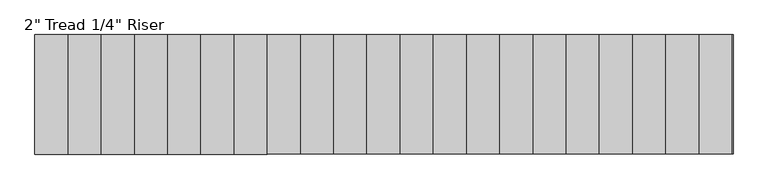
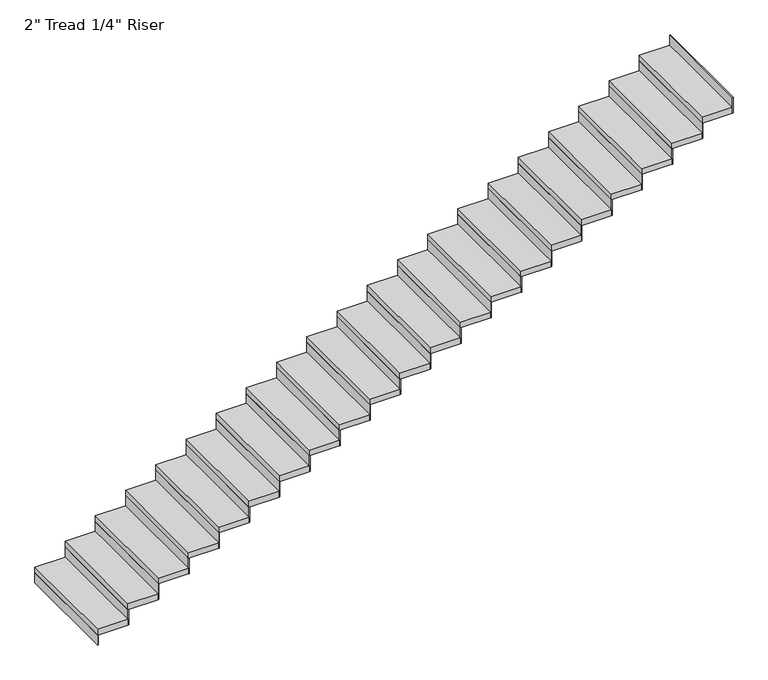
"""IFC4 building model written with IfcOpenShell, lengths in millimetres: stair flight geometry."""

import ifcopenshell
import ifcopenshell.guid

model = None  # the IFC model being written
_history = None  # IfcOwnerHistory: only IFC2X3 demands one
_inside = {}  # id of a spatial element -> (the spatial element, [elements in it])
_under = {}  # id of a project, library or spatial element -> (it, [spatial elements below it])
_declared = {}  # id of a project -> (the project, [libraries it declares])
_typed = {}  # id of a type object -> (the type object, [elements of that type])
_made_of = {}  # id of a material, layer set ... -> (it, [elements and type objects made of it])


def new_model(schema):
    """Start an empty IFC model of exactly this schema.

    Asked for "IFC4X3", IfcOpenShell would pick the latest addendum, in which some entities
    have other attributes; the version numbers below select the first issue.
    IFC2X3 requires an IfcOwnerHistory on every rooted entity: one is made here for all.
    """
    global model, _history
    if schema == "IFC4X3":
        model = ifcopenshell.file(schema_version=(4, 3, 0, 0))
    else:
        model = ifcopenshell.file(schema=schema)
    _inside.clear()
    _under.clear()
    _declared.clear()
    _typed.clear()
    _made_of.clear()
    _history = None
    if model.schema == "IFC2X3":
        org = make("IfcOrganization", Name="unknown")
        user = make(
            "IfcPersonAndOrganization",
            ThePerson=make("IfcPerson", FamilyName="unknown"),
            TheOrganization=org,
        )
        app = make(
            "IfcApplication",
            ApplicationDeveloper=org,
            Version="unknown",
            ApplicationFullName="unknown",
            ApplicationIdentifier="unknown",
        )
        _history = make(
            "IfcOwnerHistory",
            OwningUser=user,
            OwningApplication=app,
            ChangeAction="ADDED",
            CreationDate=0,
        )
    return model


def make(cls, **values):
    """One entity of the class cls with the attributes given. An attribute that is None is left unset."""
    return model.create_entity(
        cls, **{name: value for name, value in values.items() if value is not None}
    )


def rooted(cls, **values):
    """An entity with a GlobalId (a new one), such as an element, a storey or a relation."""
    return make(cls, GlobalId=ifcopenshell.guid.new(), OwnerHistory=_history, **values)


def si_unit(unit_type, name, prefix=None):
    """IfcSIUnit, for example si_unit("LENGTHUNIT", "METRE", prefix="MILLI")."""
    return make("IfcSIUnit", UnitType=unit_type, Prefix=prefix, Name=name)


def assignment(units):
    """IfcUnitAssignment: the units of a project."""
    return None if units is None else make("IfcUnitAssignment", Units=units)


def point(xyz):
    """IfcCartesianPoint."""
    return None if xyz is None else make("IfcCartesianPoint", Coordinates=xyz)


def direction(xyz):
    """IfcDirection."""
    return None if xyz is None else make("IfcDirection", DirectionRatios=xyz)


def frame(location, z_axis=None, x_axis=None):
    """IfcAxis2Placement3D, a coordinate frame: its origin and axes. An axis left out is left unset."""
    return make(
        "IfcAxis2Placement3D",
        Location=point(location),
        Axis=direction(z_axis),
        RefDirection=direction(x_axis),
    )


def origin():
    """The frame at (0, 0, 0) with its axes left unset."""
    return frame((0.0, 0.0, 0.0))


def origin_with_axes():
    """The frame at (0, 0, 0) with the z axis (0, 0, 1) and the x axis (1, 0, 0) written out."""
    return frame((0.0, 0.0, 0.0), z_axis=(0.0, 0.0, 1.0), x_axis=(1.0, 0.0, 0.0))


def place(relative_to, where):
    """IfcLocalPlacement: puts the frame where relative to a parent placement (None: the world)."""
    return make(
        "IfcLocalPlacement", PlacementRelTo=relative_to, RelativePlacement=where
    )


def context(
    kind, dimensions, precision=None, world=None, true_north=None, identifier=None
):
    """IfcGeometricRepresentationContext, for example the 3D "Model" context."""
    return make(
        "IfcGeometricRepresentationContext",
        ContextIdentifier=identifier,
        ContextType=kind,
        CoordinateSpaceDimension=dimensions,
        Precision=precision,
        WorldCoordinateSystem=world,
        TrueNorth=true_north,
    )


def project(units=None, contexts=None):
    """IfcProject with its units and contexts."""
    return rooted(
        "IfcProject",
        Name="project",
        RepresentationContexts=contexts,
        UnitsInContext=assignment(units),
    )


def spatial(cls, under=None, at=None, **own):
    """A site, building, storey or space (cls), placed at a placement, below another one or the project."""
    s = rooted(cls, ObjectPlacement=at, **own)
    if under is not None:
        _under.setdefault(under.id(), (under, []))[1].append(s)
    return s


def polyline(points):
    """IfcPolyline through the points."""
    return make("IfcPolyline", Points=[point(p) for p in points])


def outline(outer, holes=None, kind="AREA"):
    """IfcArbitraryClosedProfileDef: a profile drawn as a closed curve; with holes, ...WithVoids."""
    if holes is None:
        return make("IfcArbitraryClosedProfileDef", ProfileType=kind, OuterCurve=outer)
    return make(
        "IfcArbitraryProfileDefWithVoids",
        ProfileType=kind,
        OuterCurve=outer,
        InnerCurves=holes,
    )


def extrude(swept, where, along, depth):
    """IfcExtrudedAreaSolid: the profile swept, set in the frame where, extruded along a direction by depth."""
    return make(
        "IfcExtrudedAreaSolid",
        SweptArea=swept,
        Position=where,
        ExtrudedDirection=direction(along),
        Depth=depth,
    )


def shape(context_of_items, identifier, shape_type, items):
    """IfcShapeRepresentation: the items that make up one representation, for example the "Body"."""
    return make(
        "IfcShapeRepresentation",
        ContextOfItems=context_of_items,
        RepresentationIdentifier=identifier,
        RepresentationType=shape_type,
        Items=items,
    )


def source(mapping_origin, context_of_items, identifier, shape_type, items):
    """IfcRepresentationMap: a shape defined once, which mapped items show again and again."""
    return make(
        "IfcRepresentationMap",
        MappingOrigin=mapping_origin,
        MappedRepresentation=shape(context_of_items, identifier, shape_type, items),
    )


def transform(
    local_origin,
    x_axis=None,
    y_axis=None,
    z_axis=None,
    scale=None,
    scale2=None,
    scale3=None,
    uniform=True,
):
    """IfcCartesianTransformationOperator3D, or its non-uniform kind. x_axis, y_axis, z_axis: its Axis1, 2, 3."""
    if uniform:
        return make(
            "IfcCartesianTransformationOperator3D",
            Axis1=direction(x_axis),
            Axis2=direction(y_axis),
            LocalOrigin=point(local_origin),
            Scale=scale,
            Axis3=direction(z_axis),
        )
    return make(
        "IfcCartesianTransformationOperator3DnonUniform",
        Axis1=direction(x_axis),
        Axis2=direction(y_axis),
        LocalOrigin=point(local_origin),
        Scale=scale,
        Axis3=direction(z_axis),
        Scale2=scale2,
        Scale3=scale3,
    )


def mapped(mapping_source, mapping_target):
    """IfcMappedItem: shows the shape of a source again, moved by a transform."""
    return make(
        "IfcMappedItem", MappingSource=mapping_source, MappingTarget=mapping_target
    )


def made_of(thing, what):
    """Note that an element or type object is made of a material, layer set ...; save() writes the relation."""
    if what is not None:
        _made_of.setdefault(what.id(), (what, []))[1].append(thing)
    return thing


def element(
    cls,
    number,
    at=None,
    inside=None,
    cuts=None,
    type_object=None,
    material=None,
    context=None,
    identifier="Body",
    shape_type=None,
    held_by="IfcProductDefinitionShape",
    body=None,
    shapes=None,
    **own,
):
    """One element of the class cls, such as IfcWall. Its Tag is "e" and its number.

    at: its placement. inside: the storey or other place that contains it. cuts: it is an
    opening in that element (IfcRelVoidsElement). A single representation is given by context,
    identifier, shape_type and body (its items); several are given by shapes. held_by: the class
    of the entity that holds the representations. save() writes the other relations.
    """
    e = rooted(cls, Tag="e%d" % number, ObjectPlacement=at, **own)
    if body is not None:
        shapes = [shape(context, identifier, shape_type, body)]
    if shapes is not None:
        e.Representation = make(held_by, Representations=shapes)
    if inside is not None:
        _inside.setdefault(inside.id(), (inside, []))[1].append(e)
    if cuts is not None:
        rooted(
            "IfcRelVoidsElement", RelatingBuildingElement=cuts, RelatedOpeningElement=e
        )
    if type_object is not None:
        _typed.setdefault(type_object.id(), (type_object, []))[1].append(e)
    return made_of(e, material)


def aggregate(whole, parts):
    """IfcRelAggregates: a whole, such as a stair, and the parts it consists of."""
    return rooted("IfcRelAggregates", RelatingObject=whole, RelatedObjects=parts)


def save(model, path):
    """Write the relations noted so far, then the file.

    IfcRelAggregates (storeys below a building ...), IfcRelContainedInSpatialStructure (elements
    in a storey), IfcRelDefinesByType, IfcRelAssociatesMaterial and IfcRelDeclares: one each for
    every whole, place, type object, material and project.
    """
    for whole, parts in _under.values():
        aggregate(whole, parts)
    for where, things in _inside.values():
        rooted(
            "IfcRelContainedInSpatialStructure",
            RelatedElements=things,
            RelatingStructure=where,
        )
    for kind, things in _typed.values():
        rooted("IfcRelDefinesByType", RelatedObjects=things, RelatingType=kind)
    for what, things in _made_of.values():
        rooted("IfcRelAssociatesMaterial", RelatedObjects=things, RelatingMaterial=what)
    for by, libraries in _declared.values():
        rooted("IfcRelDeclares", RelatingContext=by, RelatedDefinitions=libraries)
    model.write(path)


def stair_flight_d3d5d3fa(model_context):
    return source(origin(), model_context, "Body", "SweptSolid", [
        extrude(outline(polyline([(29961.699343, -10136.835031), (29955.349343, -10136.835031), (29955.349343, -9222.435031), (29961.699343, -9222.435031), (29961.699343, -10136.835031)])), origin_with_axes(), (0.0, 0.0, 1.0), 87.7454545),
        extrude(outline(polyline([(30209.349343, -9222.435031), (30209.349343, -10136.835031), (29955.349343, -10136.835031), (29955.349343, -9222.435031), (30209.349343, -9222.435031)])), frame((0.0, 0.0, 87.7454545), z_axis=(0.0, 0.0, 1.0), x_axis=(1.0, 0.0, 0.0)), (0.0, 0.0, 1.0), 50.8),
        extrude(outline(polyline([(30215.699343, -10136.835031), (30209.349343, -10136.835031), (30209.349343, -9222.435031), (30215.699343, -9222.435031), (30215.699343, -10136.835031)])), frame((0.0, 0.0, 87.7454545), z_axis=(0.0, 0.0, 1.0), x_axis=(1.0, 0.0, 0.0)), (0.0, 0.0, 1.0), 138.5454545),
        extrude(outline(polyline([(30463.349343, -9222.435031), (30463.349343, -10136.835031), (30209.349343, -10136.835031), (30209.349343, -9222.435031), (30463.349343, -9222.435031)])), frame((0.0, 0.0, 226.2909091), z_axis=(0.0, 0.0, 1.0), x_axis=(1.0, 0.0, 0.0)), (0.0, 0.0, 1.0), 50.8),
        extrude(outline(polyline([(30469.699343, -10136.835031), (30463.349343, -10136.835031), (30463.349343, -9222.435031), (30469.699343, -9222.435031), (30469.699343, -10136.835031)])), frame((0.0, 0.0, 226.2909091), z_axis=(0.0, 0.0, 1.0), x_axis=(1.0, 0.0, 0.0)), (0.0, 0.0, 1.0), 138.5454545),
        extrude(outline(polyline([(30717.349343, -9222.435031), (30717.349343, -10136.835031), (30463.349343, -10136.835031), (30463.349343, -9222.435031), (30717.349343, -9222.435031)])), frame((0.0, 0.0, 364.8363636), z_axis=(0.0, 0.0, 1.0), x_axis=(1.0, 0.0, 0.0)), (0.0, 0.0, 1.0), 50.8),
        extrude(outline(polyline([(30723.699343, -10136.835031), (30717.349343, -10136.835031), (30717.349343, -9222.435031), (30723.699343, -9222.435031), (30723.699343, -10136.835031)])), frame((0.0, 0.0, 364.8363636), z_axis=(0.0, 0.0, 1.0), x_axis=(1.0, 0.0, 0.0)), (0.0, 0.0, 1.0), 138.5454545),
        extrude(outline(polyline([(30971.349343, -9222.435031), (30971.349343, -10136.835031), (30717.349343, -10136.835031), (30717.349343, -9222.435031), (30971.349343, -9222.435031)])), frame((0.0, 0.0, 503.3818182), z_axis=(0.0, 0.0, 1.0), x_axis=(1.0, 0.0, 0.0)), (0.0, 0.0, 1.0), 50.8),
        extrude(outline(polyline([(30977.699343, -10136.835031), (30971.349343, -10136.835031), (30971.349343, -9222.435031), (30977.699343, -9222.435031), (30977.699343, -10136.835031)])), frame((0.0, 0.0, 503.3818182), z_axis=(0.0, 0.0, 1.0), x_axis=(1.0, 0.0, 0.0)), (0.0, 0.0, 1.0), 138.5454545),
        extrude(outline(polyline([(31225.349343, -9222.435031), (31225.349343, -10136.835031), (30971.349343, -10136.835031), (30971.349343, -9222.435031), (31225.349343, -9222.435031)])), frame((0.0, 0.0, 641.9272727), z_axis=(0.0, 0.0, 1.0), x_axis=(1.0, 0.0, 0.0)), (0.0, 0.0, 1.0), 50.8),
        extrude(outline(polyline([(31231.699343, -10136.835031), (31225.349343, -10136.835031), (31225.349343, -9222.435031), (31231.699343, -9222.435031), (31231.699343, -10136.835031)])), frame((0.0, 0.0, 641.9272727), z_axis=(0.0, 0.0, 1.0), x_axis=(1.0, 0.0, 0.0)), (0.0, 0.0, 1.0), 138.5454545),
        extrude(outline(polyline([(31479.349343, -9222.435031), (31479.349343, -10136.835031), (31225.349343, -10136.835031), (31225.349343, -9222.435031), (31479.349343, -9222.435031)])), frame((0.0, 0.0, 780.4727273), z_axis=(0.0, 0.0, 1.0), x_axis=(1.0, 0.0, 0.0)), (0.0, 0.0, 1.0), 50.8),
        extrude(outline(polyline([(31485.699343, -10136.835031), (31479.349343, -10136.835031), (31479.349343, -9222.435031), (31485.699343, -9222.435031), (31485.699343, -10136.835031)])), frame((0.0, 0.0, 780.4727273), z_axis=(0.0, 0.0, 1.0), x_axis=(1.0, 0.0, 0.0)), (0.0, 0.0, 1.0), 138.5454545),
        extrude(outline(polyline([(31733.349343, -9222.435031), (31733.349343, -10136.835031), (31479.349343, -10136.835031), (31479.349343, -9222.435031), (31733.349343, -9222.435031)])), frame((0.0, 0.0, 919.0181818), z_axis=(0.0, 0.0, 1.0), x_axis=(1.0, 0.0, 0.0)), (0.0, 0.0, 1.0), 50.8),
        extrude(outline(polyline([(31739.699343, -10136.835031), (31733.349343, -10136.835031), (31733.349343, -9222.435031), (31739.699343, -9222.435031), (31739.699343, -10136.835031)])), frame((0.0, 0.0, 919.0181818), z_axis=(0.0, 0.0, 1.0), x_axis=(1.0, 0.0, 0.0)), (0.0, 0.0, 1.0), 138.5454545),
        extrude(outline(polyline([(31987.349343, -9222.435031), (31987.349343, -10136.835031), (31733.349343, -10136.835031), (31733.349343, -9222.435031), (31987.349343, -9222.435031)])), frame((0.0, 0.0, 1057.5636364), z_axis=(0.0, 0.0, 1.0), x_axis=(1.0, 0.0, 0.0)), (0.0, 0.0, 1.0), 50.8),
        extrude(outline(polyline([(31993.699343, -10136.835031), (31987.349343, -10136.835031), (31987.349343, -9222.435031), (31993.699343, -9222.435031), (31993.699343, -10136.835031)])), frame((0.0, 0.0, 1057.5636364), z_axis=(0.0, 0.0, 1.0), x_axis=(1.0, 0.0, 0.0)), (0.0, 0.0, 1.0), 138.5454545),
        extrude(outline(polyline([(32241.349343, -9222.435031), (32241.349343, -10136.835031), (31987.349343, -10136.835031), (31987.349343, -9222.435031), (32241.349343, -9222.435031)])), frame((0.0, 0.0, 1196.1090909), z_axis=(0.0, 0.0, 1.0), x_axis=(1.0, 0.0, 0.0)), (0.0, 0.0, 1.0), 50.8),
        extrude(outline(polyline([(32247.699343, -10136.835031), (32241.349343, -10136.835031), (32241.349343, -9222.435031), (32247.699343, -9222.435031), (32247.699343, -10136.835031)])), frame((0.0, 0.0, 1196.1090909), z_axis=(0.0, 0.0, 1.0), x_axis=(1.0, 0.0, 0.0)), (0.0, 0.0, 1.0), 138.5454545),
        extrude(outline(polyline([(32495.349343, -9222.435031), (32495.349343, -10136.835031), (32241.349343, -10136.835031), (32241.349343, -9222.435031), (32495.349343, -9222.435031)])), frame((0.0, 0.0, 1334.6545455), z_axis=(0.0, 0.0, 1.0), x_axis=(1.0, 0.0, 0.0)), (0.0, 0.0, 1.0), 50.8),
        extrude(outline(polyline([(32501.699343, -10136.835031), (32495.349343, -10136.835031), (32495.349343, -9222.435031), (32501.699343, -9222.435031), (32501.699343, -10136.835031)])), frame((0.0, 0.0, 1334.6545455), z_axis=(0.0, 0.0, 1.0), x_axis=(1.0, 0.0, 0.0)), (0.0, 0.0, 1.0), 138.5454545),
        extrude(outline(polyline([(32749.349343, -9222.435031), (32749.349343, -10136.835031), (32495.349343, -10136.835031), (32495.349343, -9222.435031), (32749.349343, -9222.435031)])), frame((0.0, 0.0, 1473.2), z_axis=(0.0, 0.0, 1.0), x_axis=(1.0, 0.0, 0.0)), (0.0, 0.0, 1.0), 50.8),
        extrude(outline(polyline([(32755.699343, -10136.835031), (32749.349343, -10136.835031), (32749.349343, -9222.435031), (32755.699343, -9222.435031), (32755.699343, -10136.835031)])), frame((0.0, 0.0, 1473.2), z_axis=(0.0, 0.0, 1.0), x_axis=(1.0, 0.0, 0.0)), (0.0, 0.0, 1.0), 138.5454545),
        extrude(outline(polyline([(33003.349343, -9222.435031), (33003.349343, -10136.835031), (32749.349343, -10136.835031), (32749.349343, -9222.435031), (33003.349343, -9222.435031)])), frame((0.0, 0.0, 1611.7454545), z_axis=(0.0, 0.0, 1.0), x_axis=(1.0, 0.0, 0.0)), (0.0, 0.0, 1.0), 50.8),
        extrude(outline(polyline([(33009.699343, -10136.835031), (33003.349343, -10136.835031), (33003.349343, -9222.435031), (33009.699343, -9222.435031), (33009.699343, -10136.835031)])), frame((0.0, 0.0, 1611.7454545), z_axis=(0.0, 0.0, 1.0), x_axis=(1.0, 0.0, 0.0)), (0.0, 0.0, 1.0), 138.5454545),
        extrude(outline(polyline([(33257.349343, -9222.435031), (33257.349343, -10136.835031), (33003.349343, -10136.835031), (33003.349343, -9222.435031), (33257.349343, -9222.435031)])), frame((0.0, 0.0, 1750.2909091), z_axis=(0.0, 0.0, 1.0), x_axis=(1.0, 0.0, 0.0)), (0.0, 0.0, 1.0), 50.8),
        extrude(outline(polyline([(33263.699343, -10136.835031), (33257.349343, -10136.835031), (33257.349343, -9222.435031), (33263.699343, -9222.435031), (33263.699343, -10136.835031)])), frame((0.0, 0.0, 1750.2909091), z_axis=(0.0, 0.0, 1.0), x_axis=(1.0, 0.0, 0.0)), (0.0, 0.0, 1.0), 138.5454545),
        extrude(outline(polyline([(33511.349343, -9222.435031), (33511.349343, -10136.835031), (33257.349343, -10136.835031), (33257.349343, -9222.435031), (33511.349343, -9222.435031)])), frame((0.0, 0.0, 1888.8363636), z_axis=(0.0, 0.0, 1.0), x_axis=(1.0, 0.0, 0.0)), (0.0, 0.0, 1.0), 50.8),
        extrude(outline(polyline([(33517.699343, -10136.835031), (33511.349343, -10136.835031), (33511.349343, -9222.435031), (33517.699343, -9222.435031), (33517.699343, -10136.835031)])), frame((0.0, 0.0, 1888.8363636), z_axis=(0.0, 0.0, 1.0), x_axis=(1.0, 0.0, 0.0)), (0.0, 0.0, 1.0), 138.5454545),
        extrude(outline(polyline([(33765.349343, -9222.435031), (33765.349343, -10136.835031), (33511.349343, -10136.835031), (33511.349343, -9222.435031), (33765.349343, -9222.435031)])), frame((0.0, 0.0, 2027.3818182), z_axis=(0.0, 0.0, 1.0), x_axis=(1.0, 0.0, 0.0)), (0.0, 0.0, 1.0), 50.8),
        extrude(outline(polyline([(33771.699343, -10136.835031), (33765.349343, -10136.835031), (33765.349343, -9222.435031), (33771.699343, -9222.435031), (33771.699343, -10136.835031)])), frame((0.0, 0.0, 2027.3818182), z_axis=(0.0, 0.0, 1.0), x_axis=(1.0, 0.0, 0.0)), (0.0, 0.0, 1.0), 138.5454545),
        extrude(outline(polyline([(34019.349343, -9222.435031), (34019.349343, -10136.835031), (33765.349343, -10136.835031), (33765.349343, -9222.435031), (34019.349343, -9222.435031)])), frame((0.0, 0.0, 2165.9272727), z_axis=(0.0, 0.0, 1.0), x_axis=(1.0, 0.0, 0.0)), (0.0, 0.0, 1.0), 50.8),
        extrude(outline(polyline([(34025.699343, -10136.835031), (34019.349343, -10136.835031), (34019.349343, -9222.435031), (34025.699343, -9222.435031), (34025.699343, -10136.835031)])), frame((0.0, 0.0, 2165.9272727), z_axis=(0.0, 0.0, 1.0), x_axis=(1.0, 0.0, 0.0)), (0.0, 0.0, 1.0), 138.5454545),
        extrude(outline(polyline([(34273.349343, -9222.435031), (34273.349343, -10136.835031), (34019.349343, -10136.835031), (34019.349343, -9222.435031), (34273.349343, -9222.435031)])), frame((0.0, 0.0, 2304.4727273), z_axis=(0.0, 0.0, 1.0), x_axis=(1.0, 0.0, 0.0)), (0.0, 0.0, 1.0), 50.8),
        extrude(outline(polyline([(34279.699343, -10136.835031), (34273.349343, -10136.835031), (34273.349343, -9222.435031), (34279.699343, -9222.435031), (34279.699343, -10136.835031)])), frame((0.0, 0.0, 2304.4727273), z_axis=(0.0, 0.0, 1.0), x_axis=(1.0, 0.0, 0.0)), (0.0, 0.0, 1.0), 138.5454545),
        extrude(outline(polyline([(34527.349343, -9222.435031), (34527.349343, -10136.835031), (34273.349343, -10136.835031), (34273.349343, -9222.435031), (34527.349343, -9222.435031)])), frame((0.0, 0.0, 2443.0181818), z_axis=(0.0, 0.0, 1.0), x_axis=(1.0, 0.0, 0.0)), (0.0, 0.0, 1.0), 50.8),
        extrude(outline(polyline([(34533.699343, -10136.835031), (34527.349343, -10136.835031), (34527.349343, -9222.435031), (34533.699343, -9222.435031), (34533.699343, -10136.835031)])), frame((0.0, 0.0, 2443.0181818), z_axis=(0.0, 0.0, 1.0), x_axis=(1.0, 0.0, 0.0)), (0.0, 0.0, 1.0), 138.5454545),
        extrude(outline(polyline([(34781.349343, -9222.435031), (34781.349343, -10136.835031), (34527.349343, -10136.835031), (34527.349343, -9222.435031), (34781.349343, -9222.435031)])), frame((0.0, 0.0, 2581.5636364), z_axis=(0.0, 0.0, 1.0), x_axis=(1.0, 0.0, 0.0)), (0.0, 0.0, 1.0), 50.8),
        extrude(outline(polyline([(34787.699343, -10136.835031), (34781.349343, -10136.835031), (34781.349343, -9222.435031), (34787.699343, -9222.435031), (34787.699343, -10136.835031)])), frame((0.0, 0.0, 2581.5636364), z_axis=(0.0, 0.0, 1.0), x_axis=(1.0, 0.0, 0.0)), (0.0, 0.0, 1.0), 138.5454545),
        extrude(outline(polyline([(35035.349343, -9222.435031), (35035.349343, -10136.835031), (34781.349343, -10136.835031), (34781.349343, -9222.435031), (35035.349343, -9222.435031)])), frame((0.0, 0.0, 2720.1090909), z_axis=(0.0, 0.0, 1.0), x_axis=(1.0, 0.0, 0.0)), (0.0, 0.0, 1.0), 50.8),
        extrude(outline(polyline([(35041.699343, -10136.835031), (35035.349343, -10136.835031), (35035.349343, -9222.435031), (35041.699343, -9222.435031), (35041.699343, -10136.835031)])), frame((0.0, 0.0, 2720.1090909), z_axis=(0.0, 0.0, 1.0), x_axis=(1.0, 0.0, 0.0)), (0.0, 0.0, 1.0), 138.5454545),
        extrude(outline(polyline([(35295.699343, -10136.835031), (35289.349343, -10136.835031), (35289.349343, -9222.435031), (35295.699343, -9222.435031), (35295.699343, -10136.835031)])), frame((0.0, 0.0, 2858.6545455), z_axis=(0.0, 0.0, 1.0), x_axis=(1.0, 0.0, 0.0)), (0.0, 0.0, 1.0), 138.5454545),
        extrude(outline(polyline([(35289.349343, -9222.435031), (35289.349343, -10136.835031), (35035.349343, -10136.835031), (35035.349343, -9222.435031), (35289.349343, -9222.435031)])), frame((0.0, 0.0, 2858.6545455), z_axis=(0.0, 0.0, 1.0), x_axis=(1.0, 0.0, 0.0)), (0.0, 0.0, 1.0), 50.8),
    ])


if __name__ == "__main__":
    model = new_model("IFC4")
    model_context = context("Model", 3, world=origin())
    ifc_project = project(units=[si_unit("LENGTHUNIT", "METRE", prefix="MILLI")], contexts=[model_context])
    site = spatial("IfcSite", under=ifc_project)
    building = spatial("IfcBuilding", under=site)
    placement = place(None, origin())
    stair_flight_shape = stair_flight_d3d5d3fa(model_context)
    element("IfcStairFlight", 1, ObjectType="2\" Tread 1/4\" Riser", at=placement, inside=building, context=model_context, shape_type="MappedRepresentation", body=[
        mapped(stair_flight_shape, transform((0.0, 0.0, 0.0), x_axis=(1.0, 0.0, 0.0), y_axis=(0.0, 1.0, 0.0), z_axis=(0.0, 0.0, 1.0))),
    ])
    save(model, "model.ifc")
